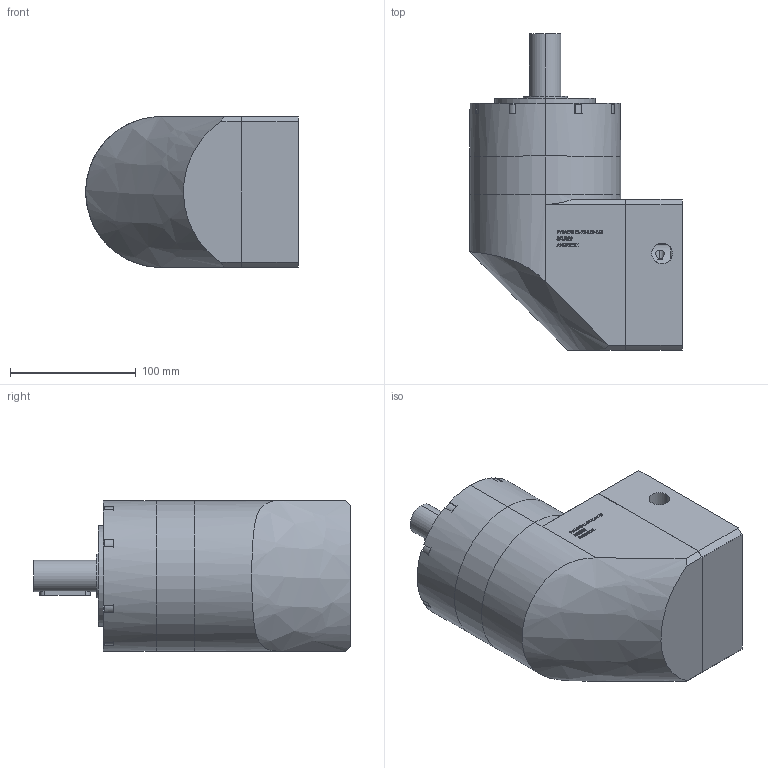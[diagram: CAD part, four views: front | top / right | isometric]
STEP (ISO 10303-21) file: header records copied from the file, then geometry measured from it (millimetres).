
FILE_DESCRIPTION (( 'STEP AP203' ), '1' );
FILE_NAME ('PVEA120-L1-22-110-145.STEP', '2022-07-27T03:55:30', ( 'Windows User' ), ( 'P R C' ), 'SwSTEP 2.0', 'SolidWorks 2016', '' );
FILE_SCHEMA (( 'CONFIG_CONTROL_DESIGN' ));
Length unit declared in the file: millimetre
Products named in the file (9): PVAE120-薊粣ん-梓袧; 螺釘範本 M8x20; 邧埴瑩 8x7x40; 粣創-3207A 35x72x27_2; PVEA120-L1-22-110-145; PVEA-眊极; PVEA120 κｳﾝﾈｦ-ﾓﾅｻｯ_ﾒｻｼｶﾄﾚｳﾝﾈｦ; PVEA120 奻屳唳; PVEA120-蟀諉啣
Assembly tree (8 placements, depth 2):
  PVEA120-L1-22-110-145
    PVEA-眊极
    PVEA120 κｳﾝﾈｦ-ﾓﾅｻｯ_ﾒｻｼｶﾄﾚｳﾝﾈｦ
    PVEA120 奻屳唳
    PVEA120-蟀諉啣
    PVAE120-薊粣ん-梓袧
    螺釘範本 M8x20
    邧埴瑩 8x7x40
    粣創-3207A 35x72x27_2
Bounding box: 169 x 252 x 120 mm (x, y, z)
Volume: 2548320.3 mm3; surface area: 300034.2 mm2
Topology: 8 solids, 16 shells, 1160 faces, 3336 edges, 2147 vertices
Faces by surface type: plane 646, bspline 263, cylinder 215, cone 36
Entity records: 47250 total; most frequent: CARTESIAN_POINT 17998, ORIENTED_EDGE 6396, DIRECTION 5112, EDGE_CURVE 3198, VERTEX_POINT 2139, VECTOR 1858, LINE 1858, AXIS2_PLACEMENT_3D 1627
